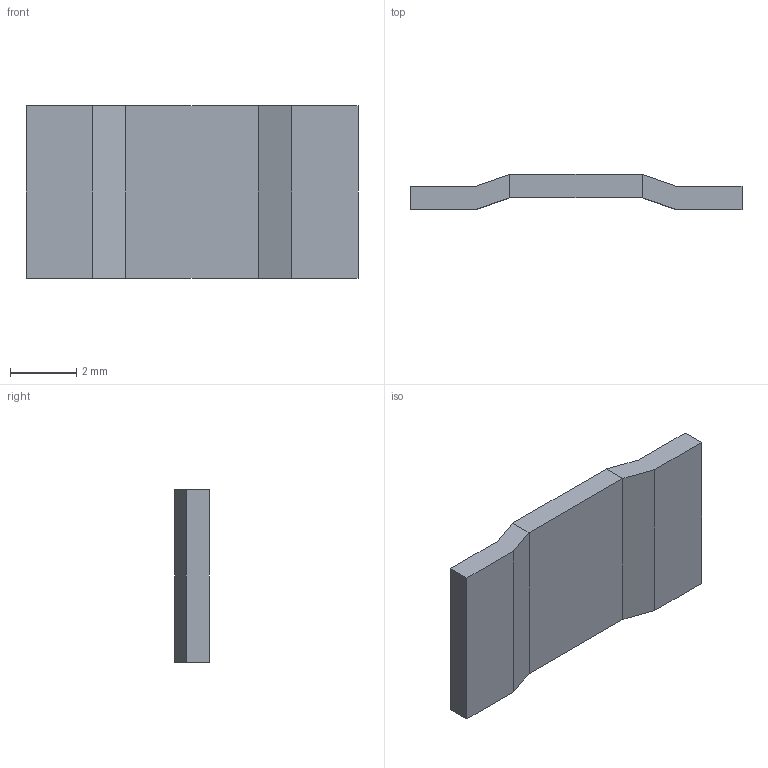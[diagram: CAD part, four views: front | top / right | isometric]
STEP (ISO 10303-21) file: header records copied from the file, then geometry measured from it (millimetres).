
FILE_DESCRIPTION (( 'STEP AP214' ), '1' );
FILE_NAME ('PSR400ITQFH1L00.STEP', '2019-12-28T17:04:34', ( '' ), ( '' ), 'SwSTEP 2.0', 'SolidWorks 2018', '' );
FILE_SCHEMA (( 'AUTOMOTIVE_DESIGN' ));
Length unit declared in the file: millimetre
Products named in the file (1): PSR400ITQFH1L00
Bounding box: 10 x 1.05 x 5.2 mm (x, y, z)
Volume: 36.4 mm3; surface area: 141.1 mm2
Topology: 3 solids, 3 shells, 22 faces, 48 edges, 32 vertices
Faces by surface type: plane 22
Entity records: 644 total; most frequent: CARTESIAN_POINT 103, ORIENTED_EDGE 96, DIRECTION 94, VECTOR 48, EDGE_CURVE 48, LINE 48, VERTEX_POINT 32, AXIS2_PLACEMENT_3D 23
